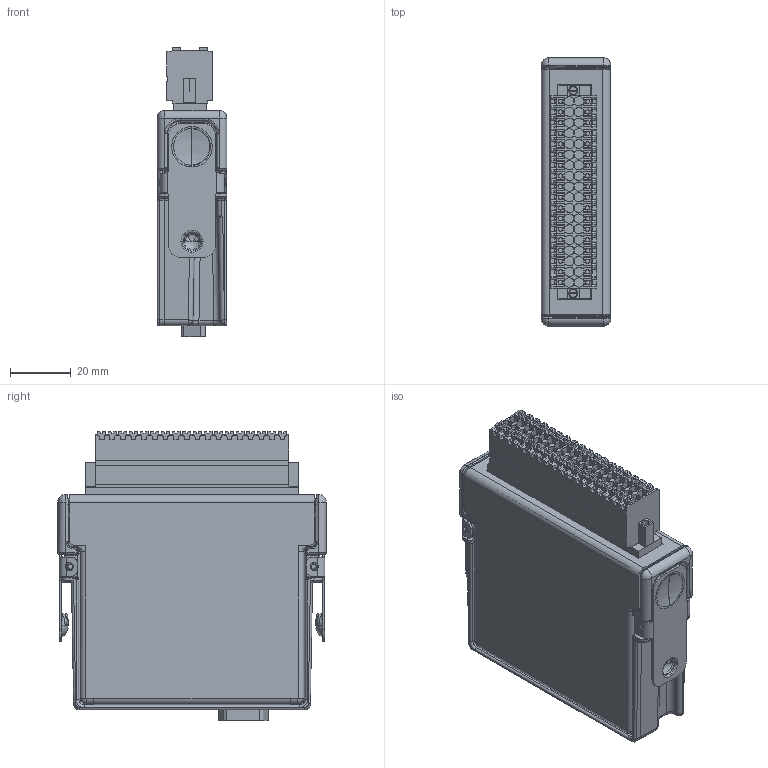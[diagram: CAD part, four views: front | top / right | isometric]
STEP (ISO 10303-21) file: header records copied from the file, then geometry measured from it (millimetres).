
FILE_DESCRIPTION((''),'2;1');
FILE_NAME('CART-CRIO-WEID-9202_REVD_ASM','2017-12-14T',('kleong'),(''),'CREO PARAMETRIC BY PTC INC, 2015380','CREO PARAMETRIC BY PTC INC, 2015380','');
FILE_SCHEMA(('CONFIG_CONTROL_DESIGN'));
Length unit declared in the file: inch
Products named in the file (13): ENCLOSURE_CART_UDAQ_REV6; SPRING-COIL-TAPERED-COMPRESSED; LATCH_REV6_CRIO; ENCLOSURE_CART_UDAQ_REV6_ASM; PWB-CRIO-WM36-9202_REVD; CONN_DB15_UDAQ_LOW_PRO; CONN_HDR_RTANG_36-POS_WEID; CCA-CRIO-WM36-9202_REVD_ASM; COVER_CART_CRIO_WIDEMULLER; INSULATOR_CART_UDAQ_DOUBLE; COVER_CART_CRIO_WIDEMULLER_ASM; PLUG_MINIMATE_36POS_B2CF_3-5; CART-CRIO-WEID-9202_REVD_ASM
Assembly tree (14 placements, depth 3):
  CART-CRIO-WEID-9202_REVD_ASM
    ENCLOSURE_CART_UDAQ_REV6_ASM
      ENCLOSURE_CART_UDAQ_REV6
      SPRING-COIL-TAPERED-COMPRESSED  x2
      LATCH_REV6_CRIO  x2
    CCA-CRIO-WM36-9202_REVD_ASM
      PWB-CRIO-WM36-9202_REVD
      CONN_DB15_UDAQ_LOW_PRO
      CONN_HDR_RTANG_36-POS_WEID
    COVER_CART_CRIO_WIDEMULLER_ASM
      COVER_CART_CRIO_WIDEMULLER
      INSULATOR_CART_UDAQ_DOUBLE
    PLUG_MINIMATE_36POS_B2CF_3-5
Bounding box: 22.86 x 88.11 x 94.92 mm (x, y, z)
Volume: 69746.9 mm3; surface area: 83111.7 mm2
Topology: 17 solids, 35 shells, 4085 faces, 10620 edges, 6712 vertices
Faces by surface type: plane 2213, cylinder 1070, bspline 519, cone 170, torus 60, sphere 47, extrusion 6
Entity records: 142699 total; most frequent: CARTESIAN_POINT 47844, ORIENTED_EDGE 20368, DIRECTION 18547, EDGE_CURVE 10212, VECTOR 6553, LINE 6550, VERTEX_POINT 6493, AXIS2_PLACEMENT_3D 5997
